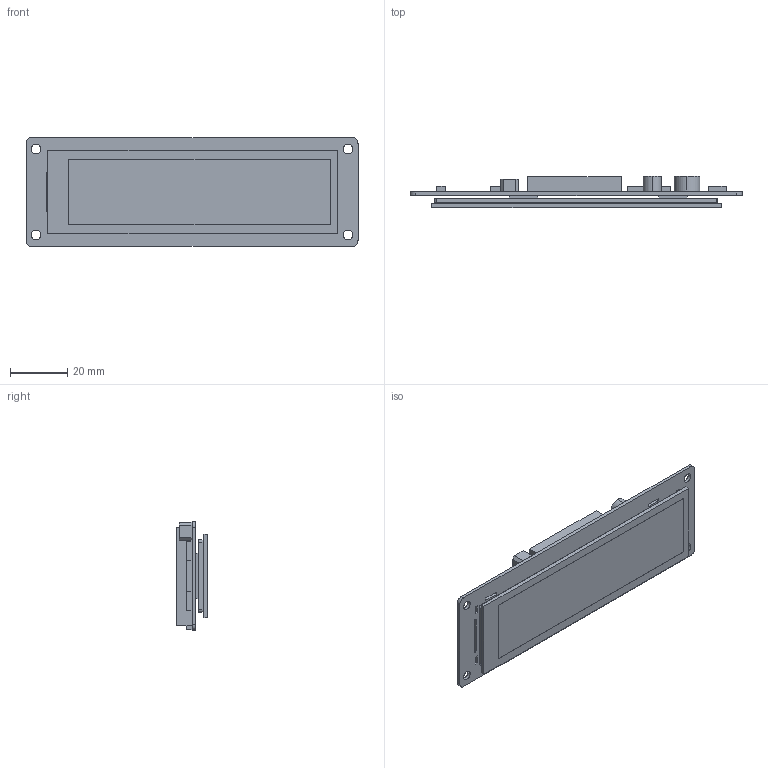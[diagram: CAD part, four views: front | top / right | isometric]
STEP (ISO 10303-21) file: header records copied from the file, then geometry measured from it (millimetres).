
FILE_DESCRIPTION (( 'STEP AP214' ), '1' );
FILE_NAME ('DMG96240C037_03WTR 3D.STEP', '2023-11-03T03:38:09', ( '' ), ( 'Microsoft' ), 'SwSTEP 2.0', 'SolidWorks 2017', '' );
FILE_SCHEMA (( 'AUTOMOTIVE_DESIGN' ));
Length unit declared in the file: millimetre
Products named in the file (5): VHB 1mm; YF03701 軞傖芞; LI24960T037BA4004TCZ01; DMG96240C037_03WN-TR; DMG96240C037_03WTR 3D
Assembly tree (5 placements, depth 2):
  DMG96240C037_03WTR 3D
    DMG96240C037_03WN-TR
    LI24960T037BA4004TCZ01
    YF03701 軞傖芞
    VHB 1mm  x2
Bounding box: 116 x 10.96 x 38 mm (x, y, z)
Volume: 20774.4 mm3; surface area: 23090.5 mm2
Topology: 5 solids, 5 shells, 239 faces, 676 edges, 458 vertices
Faces by surface type: cylinder 124, plane 115
Entity records: 10527 total; most frequent: DIRECTION 1394, CARTESIAN_POINT 1355, ORIENTED_EDGE 1328, EDGE_CURVE 664, AXIS2_PLACEMENT_3D 489, VERTEX_POINT 450, LINE 416, VECTOR 416
